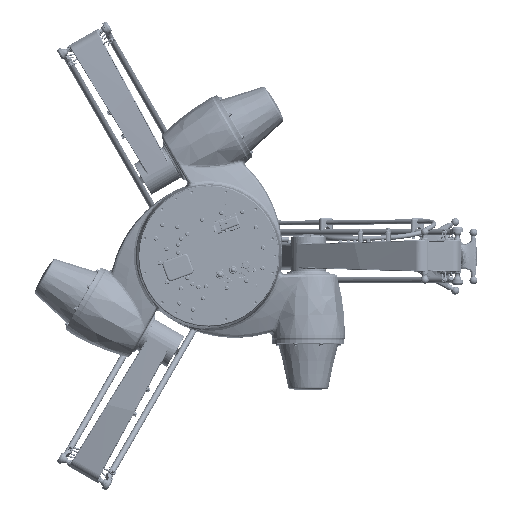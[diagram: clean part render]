
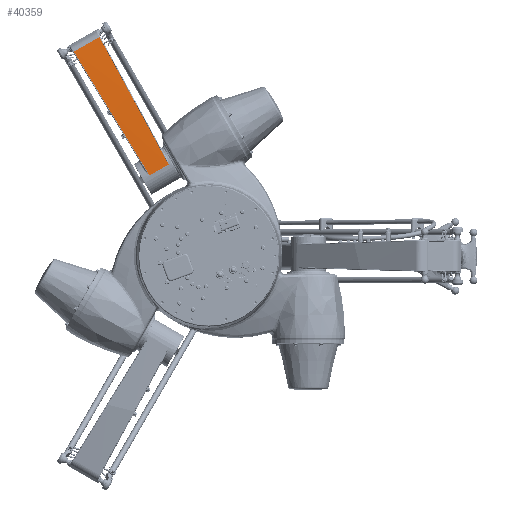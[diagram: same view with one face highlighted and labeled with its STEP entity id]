
A CAD part, top view. The second image highlights one B-rep face of the part: STEP entity #40359.
In plain terms, the highlighted cylindrical face has radius 2000 mm (diameter 4000 mm), a partial arc.
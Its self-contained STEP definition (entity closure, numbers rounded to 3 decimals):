
#11181=CYLINDRICAL_SURFACE('',#180140,2000.);
#21029=LINE('',#373448,#30927);
#21030=LINE('',#373478,#30928);
#30927=VECTOR('',#222199,1.);
#30928=VECTOR('',#222210,1.);
#40359=ADVANCED_FACE('',(#50384),#11181,.T.);
#50384=FACE_OUTER_BOUND('',#60665,.T.);
#60665=EDGE_LOOP('',(#115303,#115304,#115305,#115306));
#66562=B_SPLINE_CURVE_WITH_KNOTS('',3,(#373481,#373482,#373483,#373484,
#373485,#373486),.UNSPECIFIED.,.F.,.F.,(4,2,4),(0.,0.5,1.),
 .UNSPECIFIED.);
#66563=B_SPLINE_CURVE_WITH_KNOTS('',3,(#373487,#373488,#373489,#373490,
#373491,#373492),.UNSPECIFIED.,.F.,.F.,(4,2,4),(0.,0.5,1.),
 .UNSPECIFIED.);
#115303=ORIENTED_EDGE('',*,*,#155998,.T.);
#115304=ORIENTED_EDGE('',*,*,#155999,.T.);
#115305=ORIENTED_EDGE('',*,*,#155994,.T.);
#115306=ORIENTED_EDGE('',*,*,#156000,.T.);
#131524=VERTEX_POINT('',#373447);
#131525=VERTEX_POINT('',#373449);
#131527=VERTEX_POINT('',#373479);
#131528=VERTEX_POINT('',#373480);
#155994=EDGE_CURVE('',#131525,#131524,#21029,.T.);
#155998=EDGE_CURVE('',#131527,#131528,#21030,.T.);
#155999=EDGE_CURVE('',#131528,#131525,#66562,.T.);
#156000=EDGE_CURVE('',#131524,#131527,#66563,.T.);
#180140=AXIS2_PLACEMENT_3D('',#373493,#222211,#222212);
#222199=DIRECTION('',(0.,-1.,0.));
#222210=DIRECTION('',(0.,1.,0.));
#222211=DIRECTION('',(0.,-1.,0.));
#222212=DIRECTION('',(1.,0.,0.));
#373447=CARTESIAN_POINT('',(2.823,-27.569,44.36));
#373448=CARTESIAN_POINT('',(2.823,30.,44.36));
#373449=CARTESIAN_POINT('',(2.823,27.569,44.36));
#373478=CARTESIAN_POINT('',(364.204,30.,-12.151));
#373479=CARTESIAN_POINT('',(364.204,-37.02,-12.151));
#373480=CARTESIAN_POINT('',(364.204,37.02,-12.151));
#373481=CARTESIAN_POINT('',(364.204,37.02,-12.151));
#373482=CARTESIAN_POINT('',(316.567,35.774,-0.155));
#373483=CARTESIAN_POINT('',(262.693,34.364,11.571));
#373484=CARTESIAN_POINT('',(142.237,31.213,31.512));
#373485=CARTESIAN_POINT('',(75.646,29.473,39.726));
#373486=CARTESIAN_POINT('',(2.823,27.569,44.36));
#373487=CARTESIAN_POINT('',(2.823,-27.569,44.36));
#373488=CARTESIAN_POINT('',(75.646,-29.473,39.726));
#373489=CARTESIAN_POINT('',(142.237,-31.213,31.512));
#373490=CARTESIAN_POINT('',(262.693,-34.364,11.571));
#373491=CARTESIAN_POINT('',(316.567,-35.774,-0.155));
#373492=CARTESIAN_POINT('',(364.204,-37.02,-12.151));
#373493=CARTESIAN_POINT('',(-124.186,30.,-1951.603));
